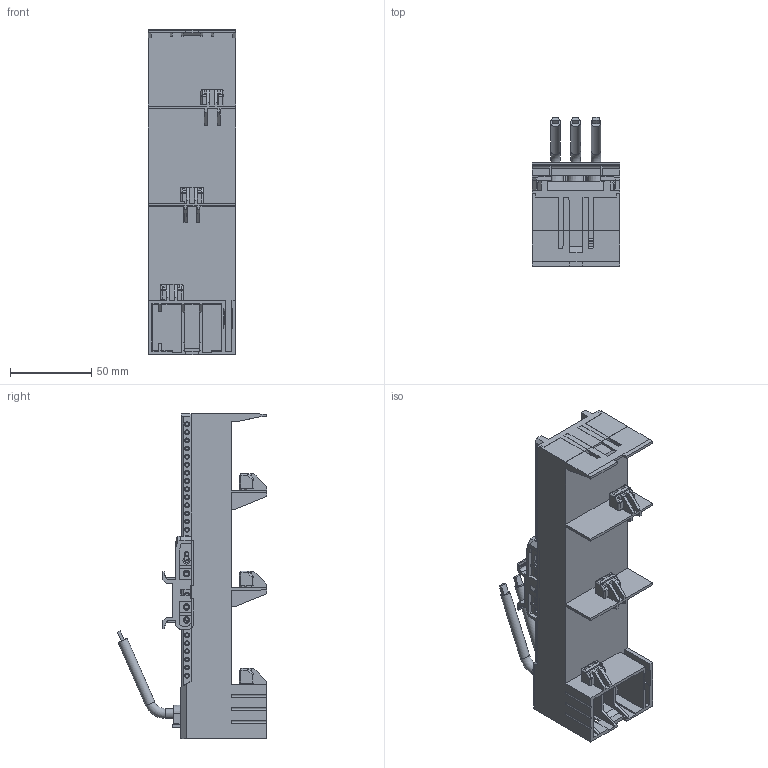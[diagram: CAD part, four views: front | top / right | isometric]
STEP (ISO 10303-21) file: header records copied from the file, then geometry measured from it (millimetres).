
FILE_DESCRIPTION (( 'STEP AP203' ), '1' );
FILE_NAME ('55364.STEP', '2021-08-18T05:23:39', ( '' ), ( '' ), 'SwSTEP 2.0', 'SolidWorks 2017', '' );
FILE_SCHEMA (( 'CONFIG_CONTROL_DESIGN' ));
Length unit declared in the file: millimetre
Products named in the file (2): 55364
Bounding box: 54.05 x 92.2 x 200.4 mm (x, y, z)
Volume: 319758.4 mm3; surface area: 84213.7 mm2
Topology: 7 solids, 24 shells, 1733 faces, 4744 edges, 3166 vertices
Faces by surface type: plane 1194, cylinder 304, cone 163, bspline 69, torus 3
Full cylindrical faces by diameter (mm): 1.988 x130, 2.6 x14, 2.982 x6, 3.479 x4, 4.2 x2, 5.169 x2, 5.964 x7, 6 x6
Entity records: 72840 total; most frequent: CARTESIAN_POINT 32142, ORIENTED_EDGE 8546, DIRECTION 7342, EDGE_CURVE 4273, VERTEX_POINT 3024, LINE 2944, VECTOR 2944, EDGE_LOOP 2257
